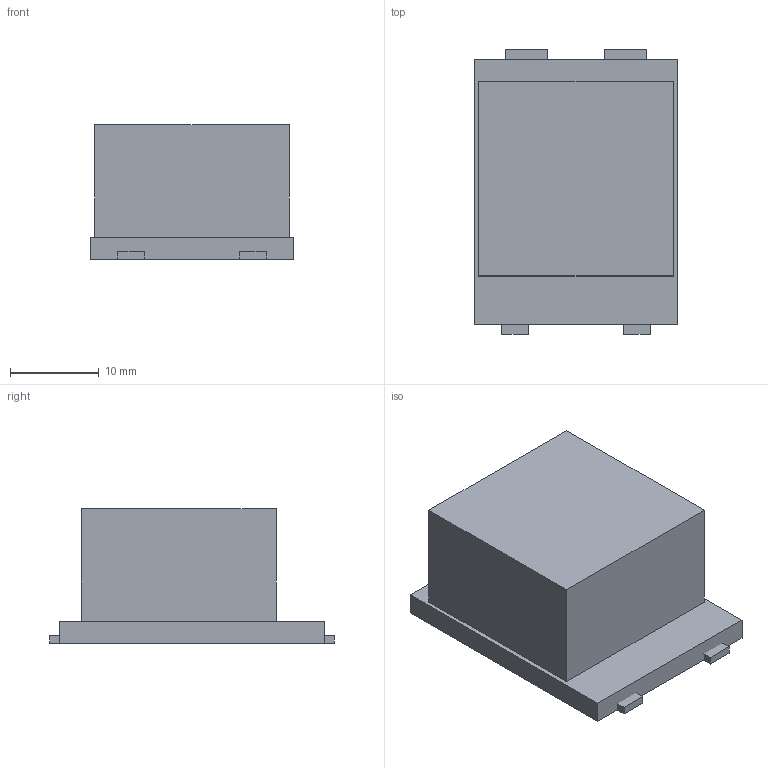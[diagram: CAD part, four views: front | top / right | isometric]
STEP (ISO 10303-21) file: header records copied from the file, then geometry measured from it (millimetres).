
FILE_DESCRIPTION(('Open CASCADE Model'),'2;1');
FILE_NAME('Open CASCADE Shape Model','2000-01-01T00:00:00',('Author'),( 'Open CASCADE'),'Open CASCADE STEP processor 7.9','Open CASCADE 7.9' ,'Unknown');
FILE_SCHEMA(('AUTOMOTIVE_DESIGN { 1 0 10303 214 1 1 1 1 }'));
Length unit declared in the file: millimetre
Products named in the file (7): Open CASCADE STEP translator 7.9 1; Open CASCADE STEP translator 7.9 1.1; Open CASCADE STEP translator 7.9 1.2; Open CASCADE STEP translator 7.9 1.3; Open CASCADE STEP translator 7.9 1.4; Open CASCADE STEP translator 7.9 1.5; Open CASCADE STEP translator 7.9 1.6
Assembly tree (6 placements, depth 2):
  Open CASCADE STEP translator 7.9 1
    Open CASCADE STEP translator 7.9 1.1
    Open CASCADE STEP translator 7.9 1.2
    Open CASCADE STEP translator 7.9 1.3
    Open CASCADE STEP translator 7.9 1.4
    Open CASCADE STEP translator 7.9 1.5
    Open CASCADE STEP translator 7.9 1.6
Bounding box: 23 x 32.1 x 15.2 mm (x, y, z)
Volume: 7974.4 mm3; surface area: 4035.6 mm2
Topology: 6 solids, 6 shells, 36 faces, 72 edges, 48 vertices
Faces by surface type: plane 36
Entity records: 1960 total; most frequent: CARTESIAN_POINT 307, DIRECTION 302, LINE 216, VECTOR 216, ORIENTED_EDGE 144, PCURVE 144, DEFINITIONAL_REPRESENTATION 144, EDGE_CURVE 72
